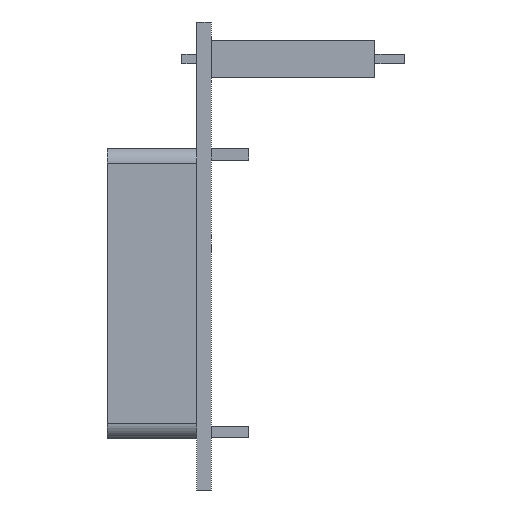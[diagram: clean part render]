
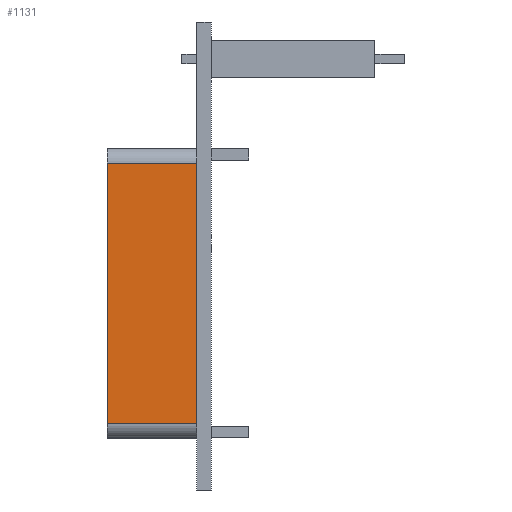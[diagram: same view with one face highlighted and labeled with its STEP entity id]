
A CAD part, left-side view. The second image highlights one B-rep face of the part: STEP entity #1131.
In plain terms, the highlighted planar face has unit normal (-1, 0, 0).
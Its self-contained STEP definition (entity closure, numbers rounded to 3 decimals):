
#121 = CARTESIAN_POINT ( 'NONE',  ( -31., 12., 11. ) ) ;
#166 = CARTESIAN_POINT ( 'NONE',  ( -31., 12., -7.5 ) ) ;
#395 = CARTESIAN_POINT ( 'NONE',  ( -31., 18., 10. ) ) ;
#424 = CARTESIAN_POINT ( 'NONE',  ( -31., 12., 10. ) ) ;
#1131 = ADVANCED_FACE ( 'NONE', ( #4693 ), #11304, .F. ) ;
#1317 = CARTESIAN_POINT ( 'NONE',  ( -31., 18., -7.5 ) ) ;
#1318 = DIRECTION ( 'NONE',  ( 0., -1., 0. ) ) ;
#1319 = CARTESIAN_POINT ( 'NONE',  ( -31., 18., 10. ) ) ;
#1320 = DIRECTION ( 'NONE',  ( 0., 1., 0. ) ) ;
#1625 = EDGE_CURVE ( 'NONE', #6403, #6659, #4984, .T. ) ;
#1992 = AXIS2_PLACEMENT_3D ( 'NONE', #11323, #11324, #11325 ) ;
#2475 = CARTESIAN_POINT ( 'NONE',  ( -31., 18., 11. ) ) ;
#2476 = DIRECTION ( 'NONE',  ( 0., 0., 1. ) ) ;
#3136 = EDGE_CURVE ( 'NONE', #6680, #6403, #3821, .T. ) ;
#3137 = EDGE_CURVE ( 'NONE', #6659, #6630, #3823, .T. ) ;
#3821 = LINE ( 'NONE', #1317, #3824 ) ;
#3823 = LINE ( 'NONE', #1319, #3826 ) ;
#3824 = VECTOR ( 'NONE', #1318, 1000. ) ;
#3826 = VECTOR ( 'NONE', #1320, 1000. ) ;
#4347 = LINE ( 'NONE', #2475, #4350 ) ;
#4350 = VECTOR ( 'NONE', #2476, 1000. ) ;
#4693 = FACE_OUTER_BOUND ( 'NONE', #6780, .T. ) ;
#4984 = LINE ( 'NONE', #121, #4993 ) ;
#4993 = VECTOR ( 'NONE', #9608, 1000. ) ;
#6403 = VERTEX_POINT ( 'NONE', #166 ) ;
#6630 = VERTEX_POINT ( 'NONE', #395 ) ;
#6659 = VERTEX_POINT ( 'NONE', #424 ) ;
#6680 = VERTEX_POINT ( 'NONE', #10059 ) ;
#6780 = EDGE_LOOP ( 'NONE', ( #7403, #7401, #7400, #7399 ) ) ;
#7399 = ORIENTED_EDGE ( 'NONE', *, *, #3137, .T. ) ;
#7400 = ORIENTED_EDGE ( 'NONE', *, *, #1625, .T. ) ;
#7401 = ORIENTED_EDGE ( 'NONE', *, *, #3136, .T. ) ;
#7403 = ORIENTED_EDGE ( 'NONE', *, *, #7835, .F. ) ;
#7835 = EDGE_CURVE ( 'NONE', #6680, #6630, #4347, .T. ) ;
#9608 = DIRECTION ( 'NONE',  ( 0., 0., 1. ) ) ;
#10059 = CARTESIAN_POINT ( 'NONE',  ( -31., 18., -7.5 ) ) ;
#11304 = PLANE ( 'NONE',  #1992 ) ;
#11323 = CARTESIAN_POINT ( 'NONE',  ( -31., 18., 11. ) ) ;
#11324 = DIRECTION ( 'NONE',  ( 1., 0., 0. ) ) ;
#11325 = DIRECTION ( 'NONE',  ( 0., 0., -1. ) ) ;
